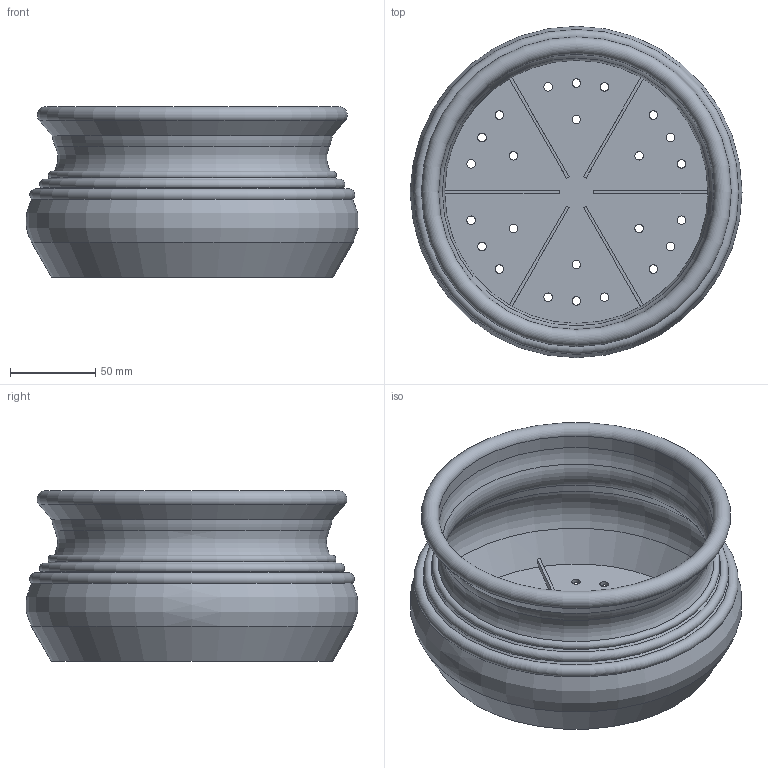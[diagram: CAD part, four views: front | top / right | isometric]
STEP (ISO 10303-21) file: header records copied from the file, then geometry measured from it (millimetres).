
FILE_DESCRIPTION(/* description */ (''),/* implementation_level */ '2;1');
FILE_NAME(/* name */ 'LR2406-S17-H100-D200_step.step',/* time_stamp */ '2024-02-01T11:02:55+01:00',/* author */ (''),/* organization */ (''),/* preprocessor_version */ 'ST-DEVELOPER v20',/* originating_system */ 'Autodesk Translation Framework v12.20.1.177',/* authorisation */ '');
FILE_SCHEMA (('AUTOMOTIVE_DESIGN { 1 0 10303 214 3 1 1 }'));
Length unit declared in the file: millimetre
Products named in the file (1): LR2406-S17-H100-D200
Bounding box: 194.37 x 194.02 x 100 mm (x, y, z)
Volume: 209735.9 mm3; surface area: 173698.1 mm2
Topology: 1 solids, 1 shells, 67 faces, 179 edges, 114 vertices
Faces by surface type: cylinder 31, plane 20, torus 10, cone 6
Full cylindrical faces by diameter (mm): 5 x24, 161.36 x1
Entity records: 2261 total; most frequent: DIRECTION 415, CARTESIAN_POINT 361, ORIENTED_EDGE 358, EDGE_CURVE 179, AXIS2_PLACEMENT_3D 168, EDGE_LOOP 115, VERTEX_POINT 114, CIRCLE 100
